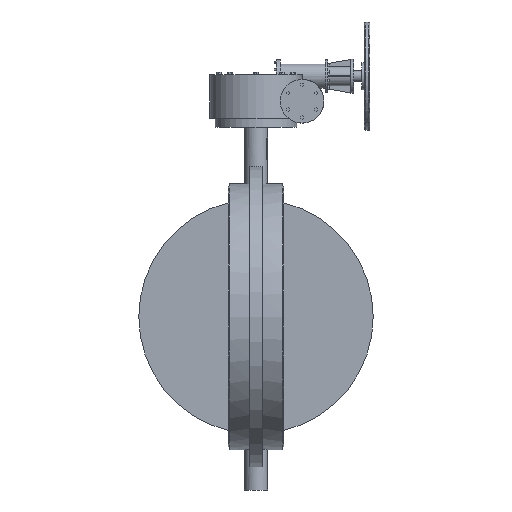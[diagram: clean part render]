
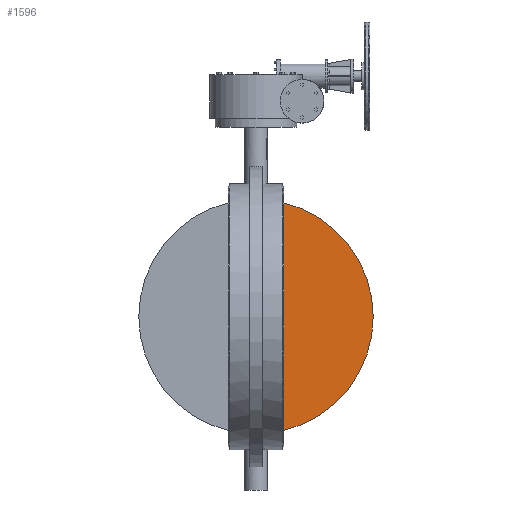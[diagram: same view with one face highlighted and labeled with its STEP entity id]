
A CAD part, front view. The second image highlights one B-rep face of the part: STEP entity #1596.
In plain terms, the highlighted planar face has unit normal (0, -1, 0).
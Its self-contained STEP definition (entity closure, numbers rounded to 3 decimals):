
#1596=ADVANCED_FACE('',(#7580),#7582,.T.);
#7580=FACE_BOUND('',#7581,.T.);
#7581=EDGE_LOOP('',(#11806,#11807));
#7582=PLANE('',#7583);
#7583=AXIS2_PLACEMENT_3D('',#7584,#7585,#7586);
#7584=CARTESIAN_POINT('',(0.,-10.,0.));
#7585=DIRECTION('',(0.,-1.,0.));
#7586=DIRECTION('',(0.,0.,1.));
#11806=ORIENTED_EDGE('',*,*,#14223,.T.);
#11807=ORIENTED_EDGE('',*,*,#14315,.T.);
#14223=EDGE_CURVE('',#15928,#15925,#15929,.T.);
#14315=EDGE_CURVE('',#15925,#15928,#16110,.T.);
#15925=VERTEX_POINT('',#20032);
#15928=VERTEX_POINT('',#20077);
#15929=LINE('',#20078,#20079);
#16110=CIRCLE('',#20572,432.35);
#20032=CARTESIAN_POINT('',(30.923,-10.,-431.243));
#20077=CARTESIAN_POINT('',(30.923,-10.,431.243));
#20078=CARTESIAN_POINT('',(30.923,-10.,431.243));
#20079=VECTOR('',#20080,1.);
#20080=DIRECTION('',(0.,0.,-1.));
#20572=AXIS2_PLACEMENT_3D('',#20573,#20574,#20575);
#20573=CARTESIAN_POINT('',(0.,-10.,0.));
#20574=DIRECTION('',(0.,-1.,0.));
#20575=DIRECTION('',(0.072,0.,-0.997));
